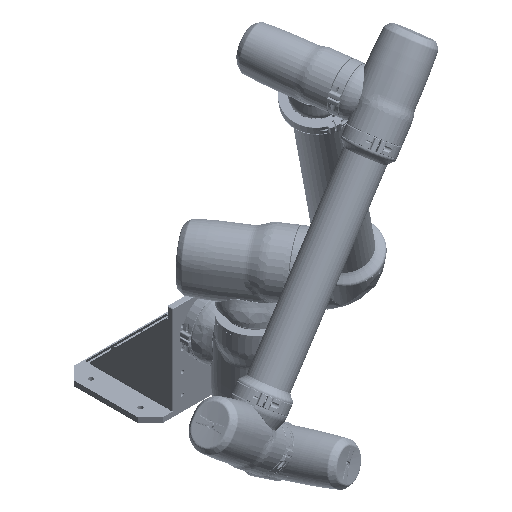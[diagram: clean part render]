
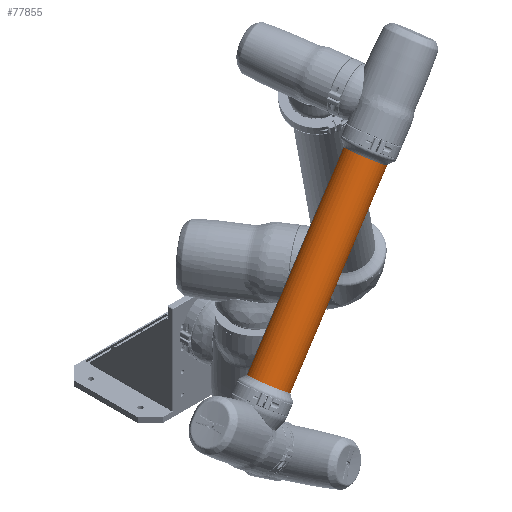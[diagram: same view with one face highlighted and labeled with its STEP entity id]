
A CAD part, isometric view. The second image highlights one B-rep face of the part: STEP entity #77855.
In plain terms, the highlighted cylindrical face has radius 34 mm (diameter 68 mm), a partial arc.
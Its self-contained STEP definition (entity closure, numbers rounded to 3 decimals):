
#266 = CARTESIAN_POINT ( 'NONE',  ( 0., 0., 0. ) ) ;
#3010 = CARTESIAN_POINT ( 'NONE',  ( 0., 0., 354. ) ) ;
#4080 = CIRCLE ( 'NONE', #39767, 34. ) ;
#5210 = ORIENTED_EDGE ( 'NONE', *, *, #87066, .T. ) ;
#7388 = LINE ( 'NONE', #38791, #21834 ) ;
#8243 = AXIS2_PLACEMENT_3D ( 'NONE', #69197, #15515, #46421 ) ;
#10842 = EDGE_CURVE ( 'NONE', #98427, #88383, #89866, .T. ) ;
#11266 = CARTESIAN_POINT ( 'NONE',  ( 34., 0., 354. ) ) ;
#15515 = DIRECTION ( 'NONE',  ( 0., 0., -1. ) ) ;
#21834 = VECTOR ( 'NONE', #93465, 1000. ) ;
#25059 = EDGE_LOOP ( 'NONE', ( #75064, #5210, #73287, #73725 ) ) ;
#38791 = CARTESIAN_POINT ( 'NONE',  ( -34., 0., 354. ) ) ;
#39767 = AXIS2_PLACEMENT_3D ( 'NONE', #266, #68112, #99031 ) ;
#39827 = CARTESIAN_POINT ( 'NONE',  ( -34., 0., 0. ) ) ;
#46421 = DIRECTION ( 'NONE',  ( -1., 0., 0. ) ) ;
#47139 = DIRECTION ( 'NONE',  ( 1., 0., 0. ) ) ;
#51398 = CARTESIAN_POINT ( 'NONE',  ( 34., 0., 354. ) ) ;
#53072 = VERTEX_POINT ( 'NONE', #39827 ) ;
#57226 = CARTESIAN_POINT ( 'NONE',  ( 34., 0., 0. ) ) ;
#59490 = VECTOR ( 'NONE', #88247, 1000. ) ;
#68112 = DIRECTION ( 'NONE',  ( 0., 0., 1. ) ) ;
#69197 = CARTESIAN_POINT ( 'NONE',  ( 0., 0., 354. ) ) ;
#73287 = ORIENTED_EDGE ( 'NONE', *, *, #83504, .T. ) ;
#73725 = ORIENTED_EDGE ( 'NONE', *, *, #96826, .F. ) ;
#74050 = LINE ( 'NONE', #11266, #59490 ) ;
#75064 = ORIENTED_EDGE ( 'NONE', *, *, #10842, .F. ) ;
#76819 = CYLINDRICAL_SURFACE ( 'NONE', #8243, 34. ) ;
#77314 = FACE_OUTER_BOUND ( 'NONE', #25059, .T. ) ;
#77855 = ADVANCED_FACE ( 'NONE', ( #77314 ), #76819, .T. ) ;
#80026 = DIRECTION ( 'NONE',  ( 0., 0., 1. ) ) ;
#81305 = CARTESIAN_POINT ( 'NONE',  ( -34., 0., 354. ) ) ;
#83504 = EDGE_CURVE ( 'NONE', #86669, #53072, #4080, .T. ) ;
#86669 = VERTEX_POINT ( 'NONE', #57226 ) ;
#87066 = EDGE_CURVE ( 'NONE', #98427, #86669, #74050, .T. ) ;
#88187 = AXIS2_PLACEMENT_3D ( 'NONE', #3010, #80026, #47139 ) ;
#88247 = DIRECTION ( 'NONE',  ( 0., 0., -1. ) ) ;
#88383 = VERTEX_POINT ( 'NONE', #81305 ) ;
#89866 = CIRCLE ( 'NONE', #88187, 34. ) ;
#93465 = DIRECTION ( 'NONE',  ( 0., 0., -1. ) ) ;
#96826 = EDGE_CURVE ( 'NONE', #88383, #53072, #7388, .T. ) ;
#98427 = VERTEX_POINT ( 'NONE', #51398 ) ;
#99031 = DIRECTION ( 'NONE',  ( 1., 0., 0. ) ) ;
